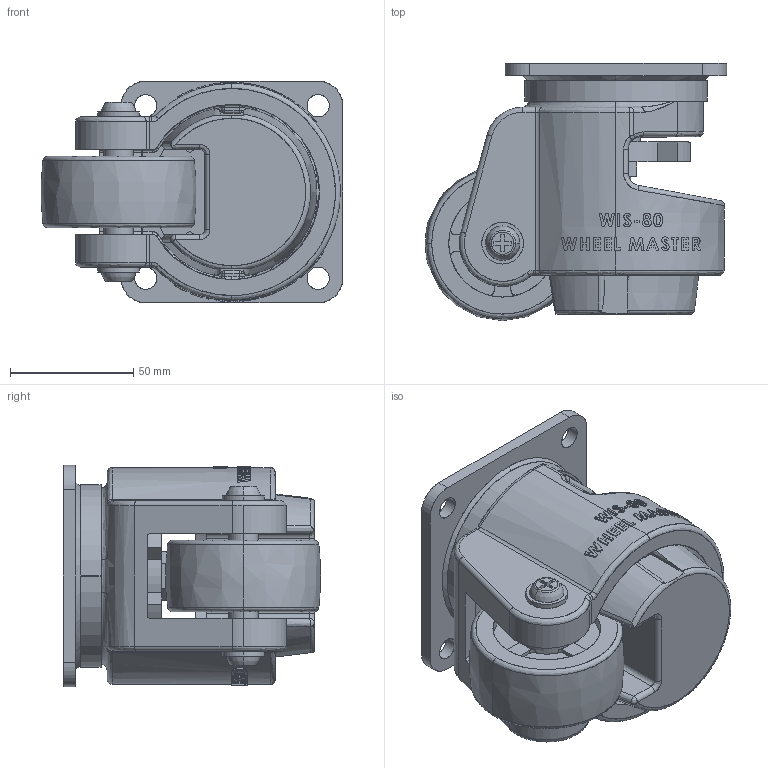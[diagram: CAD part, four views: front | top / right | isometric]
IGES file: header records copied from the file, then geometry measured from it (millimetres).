
Start section: SolidWorks IGES file using analytic representation for surfaces
Global section: file name: 2HH:\辫屈霖累诀\快老墨促肺弊(NEW)\权其捞瘤诀肺靛侩3D\WIS80FP.IGS; native system: SolidWorks 2010; preprocessor: SolidWorks 2010; author: Administrator; date: 110129.151010; units: millimetre
Bounding box: 122.41 x 104.41 x 90 mm (x, y, z)
Surface area: 112469.2 mm2 (no closed solid volume)
Topology: 0 solids, 0 shells, 1010 faces, 12969 edges, 12955 vertices
Faces by surface type: bspline 753, revolution 257
